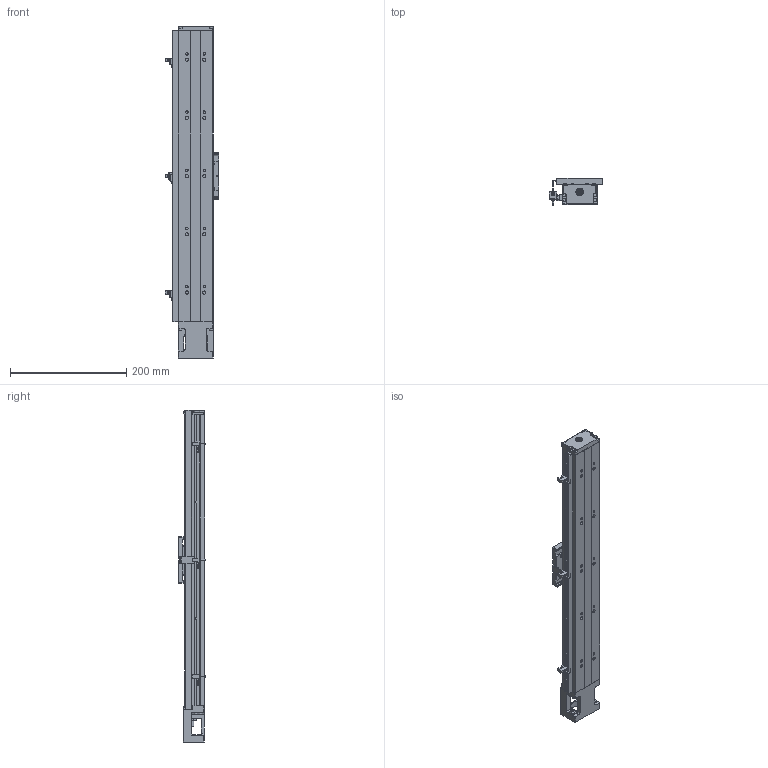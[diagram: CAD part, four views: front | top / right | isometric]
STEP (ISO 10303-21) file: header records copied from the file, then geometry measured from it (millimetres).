
FILE_DESCRIPTION (( 'STEP AP203' ), '1' );
FILE_NAME ('GKAC3060-400-12N-P10-CPXXX-網站用圖.STEP', '2023-04-18T02:24:12', ( '' ), ( '' ), 'SwSTEP 2.0', 'SolidWorks 2019', '' );
FILE_SCHEMA (( 'CONFIG_CONTROL_DESIGN' ));
Length unit declared in the file: millimetre
Products named in the file (3): GKAC3060-400-12N-P10-CPXXX-網站用圖; Group1^GKAC3060-400-12N-P10-CPXXX_defeature-網站用圖_GMT; Group2^GKAC3060-400-12N-P10-CPXXX_defeature-網站用圖_GMT
Assembly tree (2 placements, depth 2):
  GKAC3060-400-12N-P10-CPXXX-網站用圖
    Group1^GKAC3060-400-12N-P10-CPXXX_defeature-網站用圖_GMT
    Group2^GKAC3060-400-12N-P10-CPXXX_defeature-網站用圖_GMT
Bounding box: 92.4 x 46.1 x 570.5 mm (x, y, z)
Volume: 681789.4 mm3; surface area: 297774.7 mm2
Topology: 3 solids, 14 shells, 2106 faces, 5698 edges, 3539 vertices
Faces by surface type: plane 990, cylinder 603, cone 232, torus 211, sphere 54, bspline 16
Entity records: 67784 total; most frequent: CARTESIAN_POINT 13938, DIRECTION 11685, ORIENTED_EDGE 11174, EDGE_CURVE 5587, AXIS2_PLACEMENT_3D 4407, VERTEX_POINT 3516, VECTOR 2871, LINE 2871
